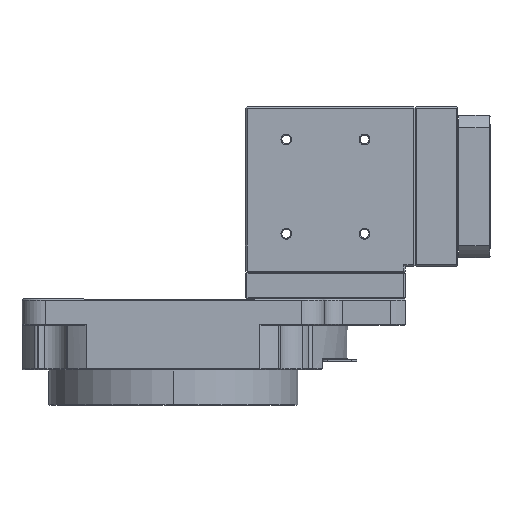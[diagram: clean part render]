
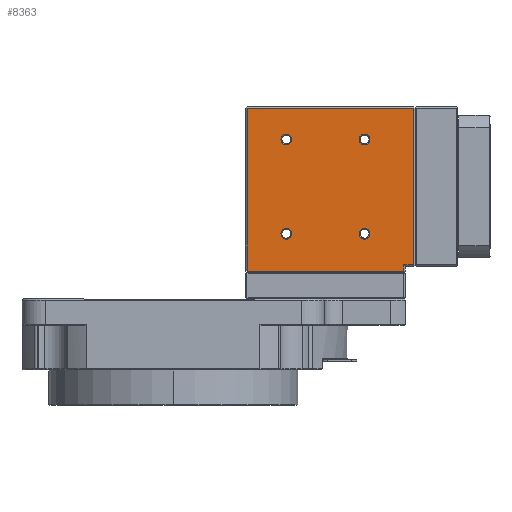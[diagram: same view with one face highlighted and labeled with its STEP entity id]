
A CAD part, left-side view. The second image highlights one B-rep face of the part: STEP entity #8363.
In plain terms, the highlighted planar face has unit normal (-1, 0, 0).
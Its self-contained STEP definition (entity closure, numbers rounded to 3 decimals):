
#1681 = VECTOR ( 'NONE', #29099, 1000. ) ;
#1705 = LINE ( 'NONE', #29089, #1681 ) ;
#5828 = CARTESIAN_POINT ( 'NONE',  ( -45., -129.56, 19. ) ) ;
#5856 = CARTESIAN_POINT ( 'NONE',  ( -45., -41.56, 15.5 ) ) ;
#5877 = CARTESIAN_POINT ( 'NONE',  ( -45., -41.56, 107. ) ) ;
#5902 = CARTESIAN_POINT ( 'NONE',  ( -45., -129.56, 15.5 ) ) ;
#5910 = CARTESIAN_POINT ( 'NONE',  ( -45., -110.56, 36.5 ) ) ;
#5912 = CARTESIAN_POINT ( 'NONE',  ( -45., -66.56, 36.5 ) ) ;
#5923 = CARTESIAN_POINT ( 'NONE',  ( -45., -135.06, 107. ) ) ;
#5975 = CARTESIAN_POINT ( 'NONE',  ( -45., -104.56, 36.5 ) ) ;
#5983 = CARTESIAN_POINT ( 'NONE',  ( -45., -110.56, 89.5 ) ) ;
#5988 = CARTESIAN_POINT ( 'NONE',  ( -45., -60.56, 36.5 ) ) ;
#5997 = CARTESIAN_POINT ( 'NONE',  ( -45., -60.56, 89.5 ) ) ;
#6002 = CARTESIAN_POINT ( 'NONE',  ( -45., -66.56, 89.5 ) ) ;
#6022 = CARTESIAN_POINT ( 'NONE',  ( -45., -104.56, 89.5 ) ) ;
#8363 = ADVANCED_FACE ( 'NONE', ( #26225, #26233, #26197, #26250, #26230 ), #25107, .T. ) ;
#10708 = EDGE_CURVE ( 'NONE', #12023, #12020, #27060, .T. ) ;
#10726 = EDGE_CURVE ( 'NONE', #11996, #11965, #27036, .T. ) ;
#10728 = EDGE_CURVE ( 'NONE', #12007, #12017, #27071, .T. ) ;
#10778 = EDGE_CURVE ( 'NONE', #12009, #11986, #27089, .T. ) ;
#10867 = EDGE_CURVE ( 'NONE', #11878, #11892, #27289, .T. ) ;
#10871 = EDGE_CURVE ( 'NONE', #11892, #11881, #27317, .T. ) ;
#10890 = EDGE_CURVE ( 'NONE', #19515, #11936, #27305, .T. ) ;
#10909 = EDGE_CURVE ( 'NONE', #11936, #11878, #27388, .T. ) ;
#10920 = EDGE_CURVE ( 'NONE', #12020, #12023, #27360, .T. ) ;
#10921 = EDGE_CURVE ( 'NONE', #12017, #12007, #27375, .T. ) ;
#10927 = EDGE_CURVE ( 'NONE', #11881, #11834, #27343, .T. ) ;
#10933 = EDGE_CURVE ( 'NONE', #11986, #12009, #26544, .T. ) ;
#10934 = EDGE_CURVE ( 'NONE', #11965, #11996, #26614, .T. ) ;
#10973 = EDGE_CURVE ( 'NONE', #11834, #19515, #1705, .T. ) ;
#11773 = ORIENTED_EDGE ( 'NONE', *, *, #10927, .T. ) ;
#11781 = ORIENTED_EDGE ( 'NONE', *, *, #10708, .T. ) ;
#11789 = ORIENTED_EDGE ( 'NONE', *, *, #10728, .T. ) ;
#11792 = ORIENTED_EDGE ( 'NONE', *, *, #10920, .T. ) ;
#11810 = ORIENTED_EDGE ( 'NONE', *, *, #10921, .T. ) ;
#11812 = ORIENTED_EDGE ( 'NONE', *, *, #10726, .T. ) ;
#11819 = ORIENTED_EDGE ( 'NONE', *, *, #10778, .T. ) ;
#11824 = ORIENTED_EDGE ( 'NONE', *, *, #10934, .T. ) ;
#11833 = ORIENTED_EDGE ( 'NONE', *, *, #10890, .T. ) ;
#11834 = VERTEX_POINT ( 'NONE', #5828 ) ;
#11840 = ORIENTED_EDGE ( 'NONE', *, *, #10871, .T. ) ;
#11875 = ORIENTED_EDGE ( 'NONE', *, *, #10933, .T. ) ;
#11878 = VERTEX_POINT ( 'NONE', #5877 ) ;
#11881 = VERTEX_POINT ( 'NONE', #5902 ) ;
#11884 = ORIENTED_EDGE ( 'NONE', *, *, #10867, .T. ) ;
#11886 = ORIENTED_EDGE ( 'NONE', *, *, #10909, .T. ) ;
#11888 = ORIENTED_EDGE ( 'NONE', *, *, #10973, .T. ) ;
#11892 = VERTEX_POINT ( 'NONE', #5856 ) ;
#11936 = VERTEX_POINT ( 'NONE', #5923 ) ;
#11965 = VERTEX_POINT ( 'NONE', #5912 ) ;
#11986 = VERTEX_POINT ( 'NONE', #5910 ) ;
#11996 = VERTEX_POINT ( 'NONE', #5988 ) ;
#12007 = VERTEX_POINT ( 'NONE', #6022 ) ;
#12009 = VERTEX_POINT ( 'NONE', #5975 ) ;
#12017 = VERTEX_POINT ( 'NONE', #5983 ) ;
#12020 = VERTEX_POINT ( 'NONE', #6002 ) ;
#12023 = VERTEX_POINT ( 'NONE', #5997 ) ;
#12249 = CARTESIAN_POINT ( 'NONE',  ( -45., -135.06, 19. ) ) ;
#16158 = AXIS2_PLACEMENT_3D ( 'NONE', #25118, #25137, #25108 ) ;
#16411 = AXIS2_PLACEMENT_3D ( 'NONE', #28476, #28481, #28482 ) ;
#16416 = AXIS2_PLACEMENT_3D ( 'NONE', #28472, #28459, #28468 ) ;
#16425 = AXIS2_PLACEMENT_3D ( 'NONE', #28372, #28384, #28386 ) ;
#16472 = AXIS2_PLACEMENT_3D ( 'NONE', #28602, #28607, #28610 ) ;
#16488 = AXIS2_PLACEMENT_3D ( 'NONE', #28967, #28962, #28945 ) ;
#16531 = AXIS2_PLACEMENT_3D ( 'NONE', #29014, #29001, #29008 ) ;
#16536 = AXIS2_PLACEMENT_3D ( 'NONE', #28941, #28951, #28954 ) ;
#16538 = AXIS2_PLACEMENT_3D ( 'NONE', #28995, #28999, #28992 ) ;
#19515 = VERTEX_POINT ( 'NONE', #12249 ) ;
#19853 = EDGE_LOOP ( 'NONE', ( #11819, #11875 ) ) ;
#19874 = EDGE_LOOP ( 'NONE', ( #11888, #11833, #11886, #11884, #11840, #11773 ) ) ;
#19913 = EDGE_LOOP ( 'NONE', ( #11789, #11810 ) ) ;
#19917 = EDGE_LOOP ( 'NONE', ( #11781, #11792 ) ) ;
#19972 = EDGE_LOOP ( 'NONE', ( #11812, #11824 ) ) ;
#25107 = PLANE ( 'NONE',  #16158 ) ;
#25108 = DIRECTION ( 'NONE',  ( 0., 1., 0. ) ) ;
#25118 = CARTESIAN_POINT ( 'NONE',  ( -45., -136.06, 108. ) ) ;
#25137 = DIRECTION ( 'NONE',  ( -1., 0., 0. ) ) ;
#26197 = FACE_BOUND ( 'NONE', #19972, .T. ) ;
#26225 = FACE_BOUND ( 'NONE', #19917, .T. ) ;
#26230 = FACE_OUTER_BOUND ( 'NONE', #19874, .T. ) ;
#26233 = FACE_BOUND ( 'NONE', #19913, .T. ) ;
#26250 = FACE_BOUND ( 'NONE', #19853, .T. ) ;
#26544 = CIRCLE ( 'NONE', #16531, 3. ) ;
#26614 = CIRCLE ( 'NONE', #16538, 3. ) ;
#27036 = CIRCLE ( 'NONE', #16416, 3. ) ;
#27060 = CIRCLE ( 'NONE', #16425, 3. ) ;
#27071 = CIRCLE ( 'NONE', #16411, 3. ) ;
#27089 = CIRCLE ( 'NONE', #16472, 3. ) ;
#27278 = VECTOR ( 'NONE', #28893, 1000. ) ;
#27289 = LINE ( 'NONE', #28840, #27341 ) ;
#27296 = VECTOR ( 'NONE', #28823, 1000. ) ;
#27305 = LINE ( 'NONE', #28872, #27278 ) ;
#27317 = LINE ( 'NONE', #28831, #27296 ) ;
#27341 = VECTOR ( 'NONE', #28821, 1000. ) ;
#27343 = LINE ( 'NONE', #28949, #27347 ) ;
#27345 = VECTOR ( 'NONE', #28935, 1000. ) ;
#27347 = VECTOR ( 'NONE', #28958, 1000. ) ;
#27360 = CIRCLE ( 'NONE', #16488, 3. ) ;
#27375 = CIRCLE ( 'NONE', #16536, 3. ) ;
#27388 = LINE ( 'NONE', #28931, #27345 ) ;
#28372 = CARTESIAN_POINT ( 'NONE',  ( -45., -63.56, 89.5 ) ) ;
#28384 = DIRECTION ( 'NONE',  ( 1., 0., 0. ) ) ;
#28386 = DIRECTION ( 'NONE',  ( 0., 1., 0. ) ) ;
#28459 = DIRECTION ( 'NONE',  ( 1., 0., 0. ) ) ;
#28468 = DIRECTION ( 'NONE',  ( 0., 1., 0. ) ) ;
#28472 = CARTESIAN_POINT ( 'NONE',  ( -45., -63.56, 36.5 ) ) ;
#28476 = CARTESIAN_POINT ( 'NONE',  ( -45., -107.56, 89.5 ) ) ;
#28481 = DIRECTION ( 'NONE',  ( 1., 0., 0. ) ) ;
#28482 = DIRECTION ( 'NONE',  ( 0., 1., 0. ) ) ;
#28602 = CARTESIAN_POINT ( 'NONE',  ( -45., -107.56, 36.5 ) ) ;
#28607 = DIRECTION ( 'NONE',  ( 1., 0., 0. ) ) ;
#28610 = DIRECTION ( 'NONE',  ( 0., 1., 0. ) ) ;
#28821 = DIRECTION ( 'NONE',  ( 0., 0., -1. ) ) ;
#28823 = DIRECTION ( 'NONE',  ( 0., -1., 0. ) ) ;
#28831 = CARTESIAN_POINT ( 'NONE',  ( -45., -130.56, 15.5 ) ) ;
#28840 = CARTESIAN_POINT ( 'NONE',  ( -45., -41.56, 14.5 ) ) ;
#28872 = CARTESIAN_POINT ( 'NONE',  ( -45., -135.06, 108. ) ) ;
#28893 = DIRECTION ( 'NONE',  ( 0., 0., 1. ) ) ;
#28931 = CARTESIAN_POINT ( 'NONE',  ( -45., -136.06, 107. ) ) ;
#28935 = DIRECTION ( 'NONE',  ( 0., 1., 0. ) ) ;
#28941 = CARTESIAN_POINT ( 'NONE',  ( -45., -107.56, 89.5 ) ) ;
#28945 = DIRECTION ( 'NONE',  ( 0., 1., 0. ) ) ;
#28949 = CARTESIAN_POINT ( 'NONE',  ( -45., -129.56, 18. ) ) ;
#28951 = DIRECTION ( 'NONE',  ( 1., 0., 0. ) ) ;
#28954 = DIRECTION ( 'NONE',  ( 0., 1., 0. ) ) ;
#28958 = DIRECTION ( 'NONE',  ( 0., 0., 1. ) ) ;
#28962 = DIRECTION ( 'NONE',  ( 1., 0., 0. ) ) ;
#28967 = CARTESIAN_POINT ( 'NONE',  ( -45., -63.56, 89.5 ) ) ;
#28992 = DIRECTION ( 'NONE',  ( 0., 1., 0. ) ) ;
#28995 = CARTESIAN_POINT ( 'NONE',  ( -45., -63.56, 36.5 ) ) ;
#28999 = DIRECTION ( 'NONE',  ( 1., 0., 0. ) ) ;
#29001 = DIRECTION ( 'NONE',  ( 1., 0., 0. ) ) ;
#29008 = DIRECTION ( 'NONE',  ( 0., 1., 0. ) ) ;
#29014 = CARTESIAN_POINT ( 'NONE',  ( -45., -107.56, 36.5 ) ) ;
#29089 = CARTESIAN_POINT ( 'NONE',  ( -45., -136.06, 19. ) ) ;
#29099 = DIRECTION ( 'NONE',  ( 0., -1., 0. ) ) ;
